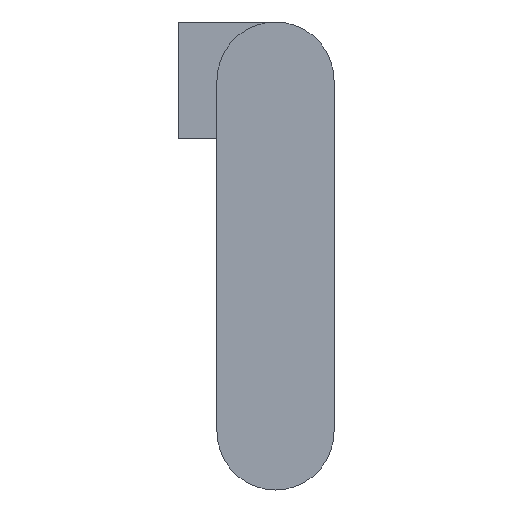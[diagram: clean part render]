
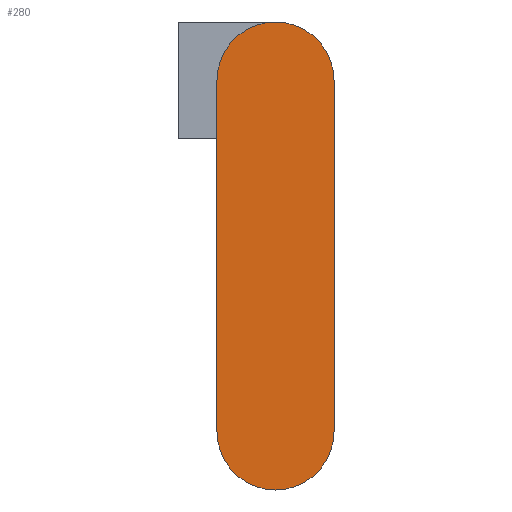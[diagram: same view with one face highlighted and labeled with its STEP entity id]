
A CAD part, front view. The second image highlights one B-rep face of the part: STEP entity #280.
In plain terms, the highlighted planar face has unit normal (0, -1, 0).
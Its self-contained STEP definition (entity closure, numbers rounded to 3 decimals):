
#280=ADVANCED_FACE('',(#481),#371,.F.);
#371=PLANE('',#2536);
#481=FACE_OUTER_BOUND('',#1107,.T.);
#676=LINE('',#3824,#868);
#677=LINE('',#3828,#869);
#868=VECTOR('',#3178,1.);
#869=VECTOR('',#3181,1.);
#1107=EDGE_LOOP('',(#1683,#1684,#1685,#1686));
#1683=ORIENTED_EDGE('',*,*,#2204,.F.);
#1684=ORIENTED_EDGE('',*,*,#2205,.F.);
#1685=ORIENTED_EDGE('',*,*,#2206,.F.);
#1686=ORIENTED_EDGE('',*,*,#2197,.F.);
#1907=VERTEX_POINT('',#3809);
#1908=VERTEX_POINT('',#3811);
#1913=VERTEX_POINT('',#3825);
#1914=VERTEX_POINT('',#3827);
#2197=EDGE_CURVE('',#1907,#1908,#2306,.T.);
#2204=EDGE_CURVE('',#1913,#1907,#676,.T.);
#2205=EDGE_CURVE('',#1914,#1913,#2310,.T.);
#2206=EDGE_CURVE('',#1908,#1914,#677,.T.);
#2306=CIRCLE('',#2529,15.);
#2310=CIRCLE('',#2535,15.);
#2529=AXIS2_PLACEMENT_3D('',#3810,#3163,#3164);
#2535=AXIS2_PLACEMENT_3D('',#3826,#3179,#3180);
#2536=AXIS2_PLACEMENT_3D('',#3829,#3182,#3183);
#3163=DIRECTION('',(0.,1.,0.));
#3164=DIRECTION('',(0.,0.,1.));
#3178=DIRECTION('',(0.,0.,1.));
#3179=DIRECTION('',(0.,1.,0.));
#3180=DIRECTION('',(0.,0.,1.));
#3181=DIRECTION('',(0.,0.,-1.));
#3182=DIRECTION('',(0.,1.,0.));
#3183=DIRECTION('',(0.,0.,1.));
#3809=CARTESIAN_POINT('',(420.64,-210.631,-623.283));
#3810=CARTESIAN_POINT('',(435.64,-210.631,-623.283));
#3811=CARTESIAN_POINT('',(450.64,-210.631,-623.283));
#3824=CARTESIAN_POINT('',(420.64,-210.631,-703.283));
#3825=CARTESIAN_POINT('',(420.64,-210.631,-713.283));
#3826=CARTESIAN_POINT('',(435.64,-210.631,-713.283));
#3827=CARTESIAN_POINT('',(450.64,-210.631,-713.283));
#3828=CARTESIAN_POINT('',(450.64,-210.631,-623.283));
#3829=CARTESIAN_POINT('',(435.64,-210.631,-623.283));
